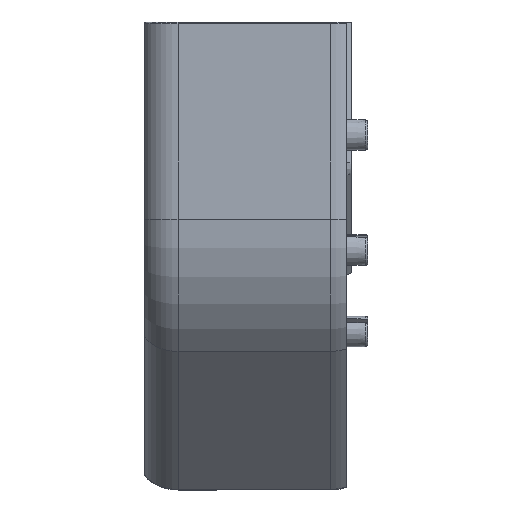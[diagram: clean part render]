
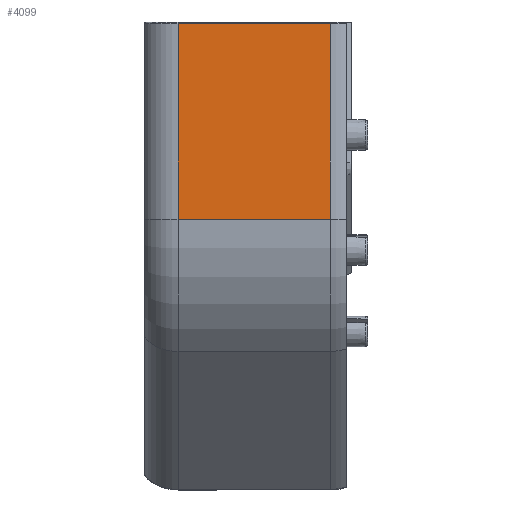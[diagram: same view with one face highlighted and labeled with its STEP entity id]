
A CAD part, left-side view. The second image highlights one B-rep face of the part: STEP entity #4099.
In plain terms, the highlighted planar face has unit normal (-1, 0, 0).
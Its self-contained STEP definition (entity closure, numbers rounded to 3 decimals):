
#21 = DIRECTION ( 'NONE',  ( 0., 0., -1. ) ) ;
#195 = CARTESIAN_POINT ( 'NONE',  ( -12.5, 10.94, 0. ) ) ;
#475 = LINE ( 'NONE', #1100, #938 ) ;
#530 = EDGE_CURVE ( 'NONE', #3508, #4425, #1557, .T. ) ;
#643 = DIRECTION ( 'NONE',  ( 1., 0., 0. ) ) ;
#696 = CARTESIAN_POINT ( 'NONE',  ( -12.5, -2.94, -10.788 ) ) ;
#938 = VECTOR ( 'NONE', #1051, 1000. ) ;
#1051 = DIRECTION ( 'NONE',  ( 0., 0., -1. ) ) ;
#1100 = CARTESIAN_POINT ( 'NONE',  ( -12.5, -1.25, 0. ) ) ;
#1129 = FACE_OUTER_BOUND ( 'NONE', #3730, .T. ) ;
#1347 = PLANE ( 'NONE',  #1425 ) ;
#1425 = AXIS2_PLACEMENT_3D ( 'NONE', #3880, #643, #4254 ) ;
#1534 = VECTOR ( 'NONE', #1633, 1000. ) ;
#1557 = LINE ( 'NONE', #696, #3773 ) ;
#1633 = DIRECTION ( 'NONE',  ( 0., 1., 0. ) ) ;
#1913 = VECTOR ( 'NONE', #21, 1000. ) ;
#2022 = ORIENTED_EDGE ( 'NONE', *, *, #4422, .T. ) ;
#2176 = VERTEX_POINT ( 'NONE', #3528 ) ;
#2430 = DIRECTION ( 'NONE',  ( 0., 1., 0. ) ) ;
#2448 = ORIENTED_EDGE ( 'NONE', *, *, #4559, .T. ) ;
#2477 = CARTESIAN_POINT ( 'NONE',  ( -12.5, -1.25, -10.788 ) ) ;
#2950 = LINE ( 'NONE', #3006, #1534 ) ;
#3000 = LINE ( 'NONE', #195, #1913 ) ;
#3006 = CARTESIAN_POINT ( 'NONE',  ( -12.5, 10.94, 4.85 ) ) ;
#3413 = ORIENTED_EDGE ( 'NONE', *, *, #4159, .F. ) ;
#3464 = VERTEX_POINT ( 'NONE', #4698 ) ;
#3508 = VERTEX_POINT ( 'NONE', #2477 ) ;
#3528 = CARTESIAN_POINT ( 'NONE',  ( -12.5, -1.25, 4.85 ) ) ;
#3730 = EDGE_LOOP ( 'NONE', ( #3413, #2022, #2448, #4290 ) ) ;
#3773 = VECTOR ( 'NONE', #2430, 1000. ) ;
#3880 = CARTESIAN_POINT ( 'NONE',  ( -12.5, -1.25, 0. ) ) ;
#4099 = ADVANCED_FACE ( 'NONE', ( #1129 ), #1347, .F. ) ;
#4159 = EDGE_CURVE ( 'NONE', #2176, #3508, #475, .T. ) ;
#4179 = CARTESIAN_POINT ( 'NONE',  ( -12.5, 10.94, -10.788 ) ) ;
#4254 = DIRECTION ( 'NONE',  ( 0., 1., 0. ) ) ;
#4290 = ORIENTED_EDGE ( 'NONE', *, *, #530, .F. ) ;
#4422 = EDGE_CURVE ( 'NONE', #2176, #3464, #2950, .T. ) ;
#4425 = VERTEX_POINT ( 'NONE', #4179 ) ;
#4559 = EDGE_CURVE ( 'NONE', #3464, #4425, #3000, .T. ) ;
#4698 = CARTESIAN_POINT ( 'NONE',  ( -12.5, 10.94, 4.85 ) ) ;
